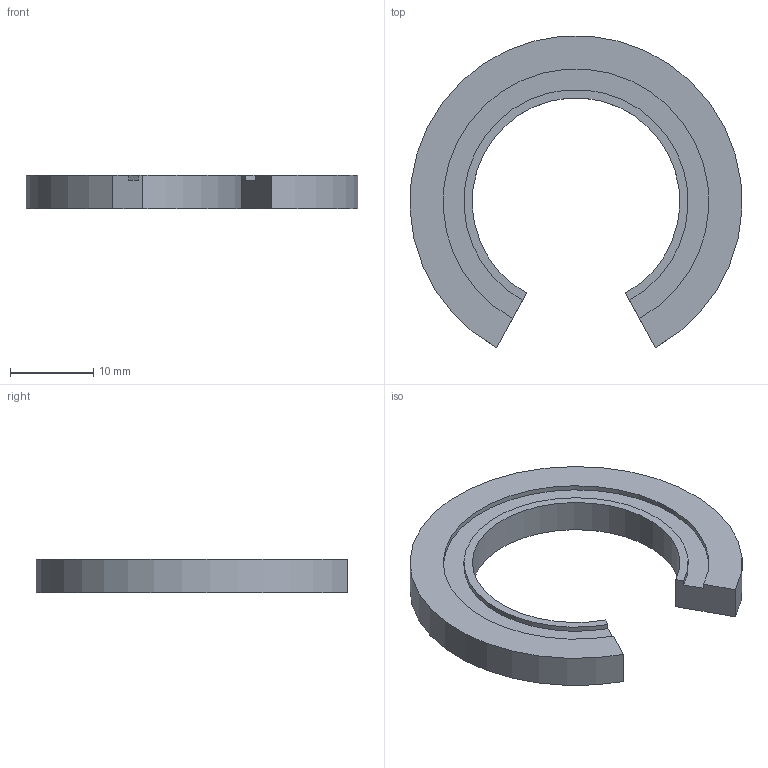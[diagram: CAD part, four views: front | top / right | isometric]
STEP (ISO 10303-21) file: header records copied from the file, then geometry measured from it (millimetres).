
FILE_DESCRIPTION(/* description */ (''),/* implementation_level */ '2;1');
FILE_NAME(/* name */ 'W:\WEBOVKY\Knecht\VD-OP\VD25-OP\VD25-OP.stp',/* time_stamp */ '2021-03-08T12:33:10+01:00',/* author */ ('mkorenek'),/* organization */ (''),/* preprocessor_version */ 'ST-DEVELOPER v18.1',/* originating_system */ 'Autodesk Inventor 2021',/* authorisation */ '');
FILE_SCHEMA (('AUTOMOTIVE_DESIGN { 1 0 10303 214 3 1 1 }'));
Length unit declared in the file: millimetre
Products named in the file (2): VD25-OP; VD16
Assembly tree (1 placements, depth 2):
  VD25-OP
    VD16
Bounding box: 39.95 x 37.5 x 4 mm (x, y, z)
Volume: 2461.1 mm3; surface area: 2127.1 mm2
Topology: 1 solids, 1 shells, 10 faces, 24 edges, 16 vertices
Faces by surface type: plane 6, cylinder 4
Entity records: 363 total; most frequent: DIRECTION 58, CARTESIAN_POINT 53, ORIENTED_EDGE 48, EDGE_CURVE 24, AXIS2_PLACEMENT_3D 21, LINE 16, VECTOR 16, VERTEX_POINT 16
